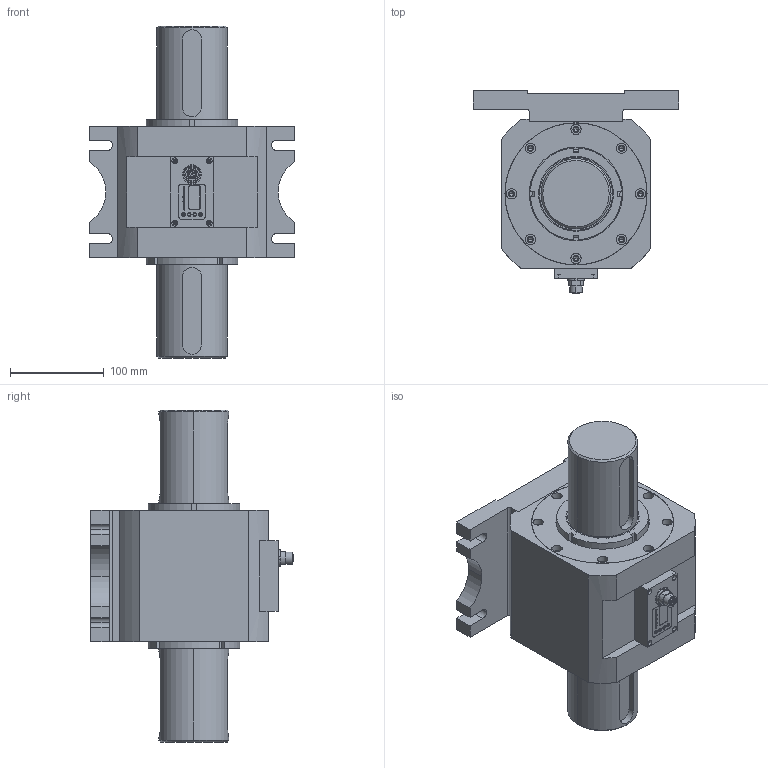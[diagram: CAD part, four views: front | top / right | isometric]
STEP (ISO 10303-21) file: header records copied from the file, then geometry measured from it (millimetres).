
FILE_DESCRIPTION (( 'STEP AP214' ), '1' );
FILE_NAME ('WTQ-2054蚾饜极.STEP', '2023-03-28T08:04:58', ( '' ), ( '' ), 'SwSTEP 2.0', 'SolidWorks 2014', '' );
FILE_SCHEMA (( 'AUTOMOTIVE_DESIGN' ));
Length unit declared in the file: millimetre
Products named in the file (21): WTQ-2054线圈架2_1; WTQ-2054线圈架1_1; WTQ-2054线圈骨架_1; WTQ-2054线圈隔离环2_1; WTQ-2054线圈隔离环1_1; WTQ-2054俋褲_1; WTQ-2054粟俶粣_1; 醱啣_2; WTQ-2054粣結2_2; WTQ-2054蚾饜极; WTQ-205X炵蹈奻裔_2; WTQ-2054菁釱_2; 瑤脣菁釱_2; WTQ-2054傷裔_2; WTQ-2054粣結1_2; 粣創6016_6016-Z_2; WTQ-2054轴套外挡圈_2; WTQ-2054线圈压块3_2; WTQ-2054线圈压块2_2; WTQ-2054线圈压块1_2; WTQ-2054线圈架3_2
Assembly tree (24 placements, depth 2):
  WTQ-2054蚾饜极
    WTQ-2054粟俶粣_1
    WTQ-2054俋褲_1
    WTQ-2054线圈隔离环1_1
    WTQ-2054线圈隔离环2_1
    WTQ-2054线圈骨架_1
    WTQ-2054线圈架1_1
    WTQ-2054线圈架2_1
    WTQ-2054线圈架3_2  x2
    WTQ-2054线圈压块1_2
    WTQ-2054线圈压块2_2
    WTQ-2054线圈压块3_2  x2
    WTQ-2054轴套外挡圈_2
    粣創6016_6016-Z_2  x2
    WTQ-2054粣結1_2
    WTQ-2054傷裔_2  x2
    瑤脣菁釱_2
    WTQ-2054菁釱_2
    WTQ-205X炵蹈奻裔_2
    WTQ-2054粣結2_2
    醱啣_2
Bounding box: 220 x 216.9 x 355 mm (x, y, z)
Volume: 4535917.5 mm3; surface area: 749746 mm2
Topology: 73 solids, 73 shells, 2405 faces, 6409 edges, 4160 vertices
Faces by surface type: plane 893, cylinder 827, bspline 307, sphere 190, cone 132, torus 56
Entity records: 111118 total; most frequent: CARTESIAN_POINT 39371, ORIENTED_EDGE 10430, DIRECTION 8893, EDGE_CURVE 5215, VERTEX_POINT 3460, AXIS2_PLACEMENT_3D 3056, VECTOR 2781, LINE 2781
